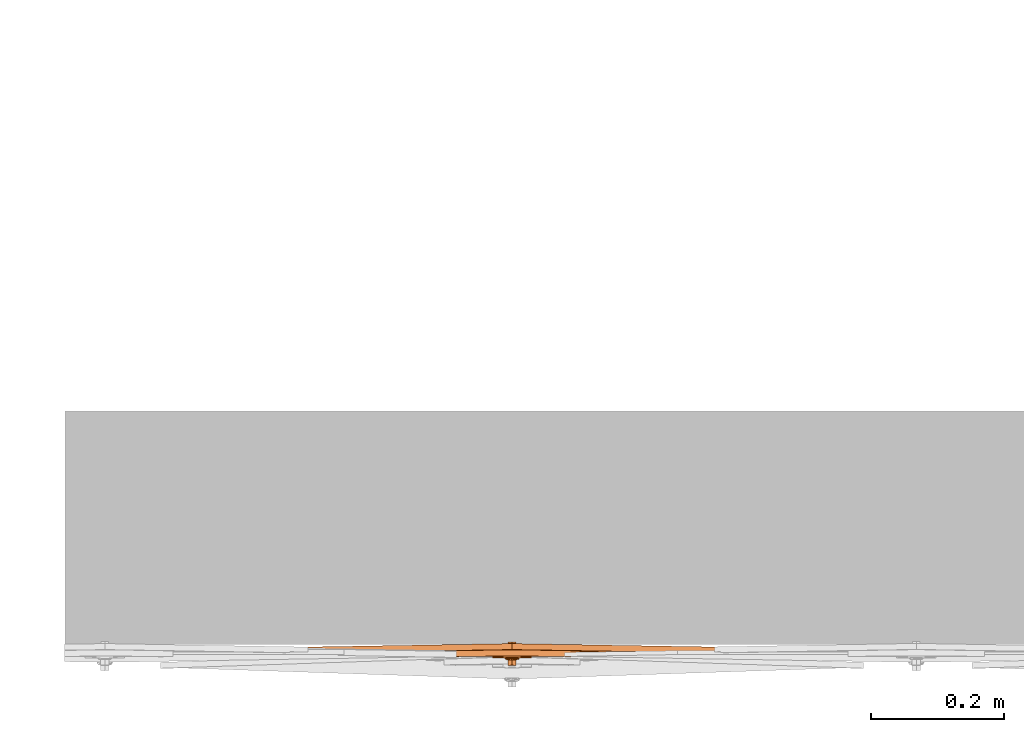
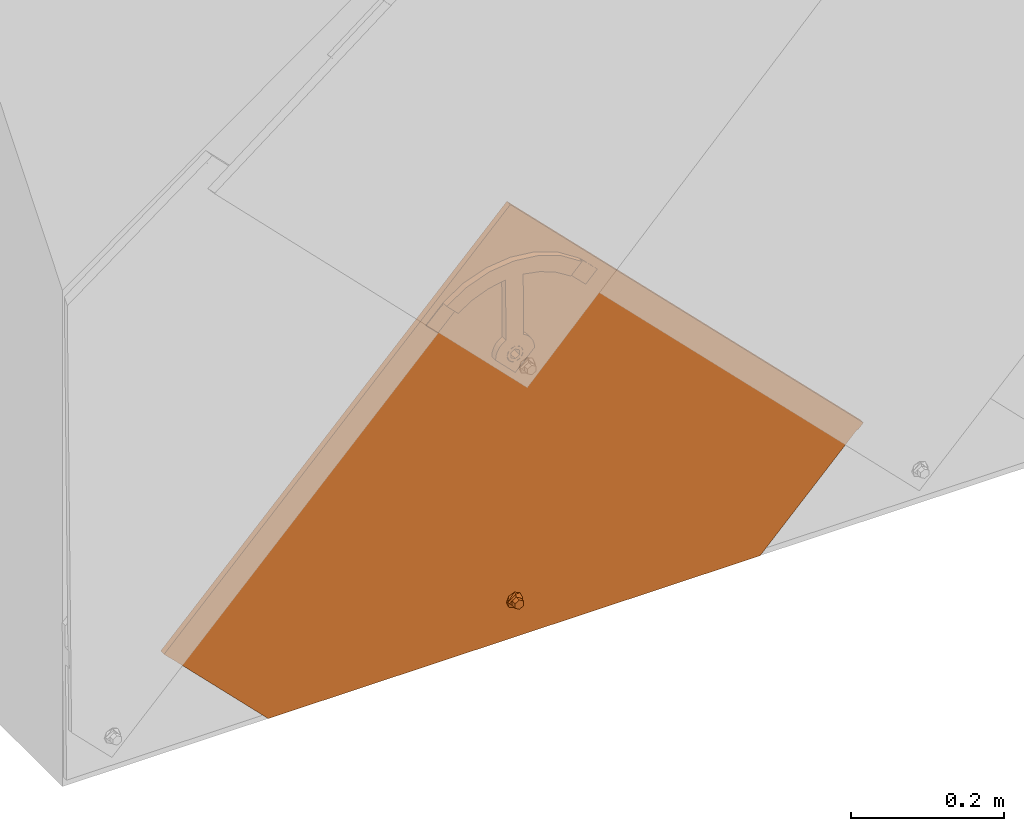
# One storey, part 3 of 151: 1 proxy.
"""IFC2X3 building model written with IfcOpenShell, lengths in millimetres."""

from ifc_helpers import new_model, entity, si_unit, converted_unit, derived_unit, direction, frame, origin, place, context, subcontext, project, spatial, faceted_brep, source, transform, mapped, material, material_list, type_object, type_shapes, element, save


model = new_model("IFC2X3")

# Units and contexts
model_context = context("Model", 3, precision=0.01, world=origin(), true_north=direction((6.12303176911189e-17, 1.0)))
body_context = subcontext(model_context, "Body", "Model", "MODEL_VIEW")
ifc_project = project(units=[si_unit("LENGTHUNIT", "METRE", prefix="MILLI"), si_unit("AREAUNIT", "SQUARE_METRE"), si_unit("VOLUMEUNIT", "CUBIC_METRE"), converted_unit("PLANEANGLEUNIT", "DEGREE", entity("IfcRatioMeasure", 0.0174532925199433), si_unit("PLANEANGLEUNIT", "RADIAN"), dimensions=[0, 0, 0, 0, 0, 0, 0]), si_unit("MASSUNIT", "GRAM", prefix="KILO"), derived_unit("MASSDENSITYUNIT", [(si_unit("MASSUNIT", "GRAM", prefix="KILO"), 1), (si_unit("LENGTHUNIT", "METRE"), -3)]), si_unit("TIMEUNIT", "SECOND"), si_unit("FREQUENCYUNIT", "HERTZ"), si_unit("THERMODYNAMICTEMPERATUREUNIT", "DEGREE_CELSIUS"), derived_unit("THERMALTRANSMITTANCEUNIT", [(si_unit("MASSUNIT", "GRAM", prefix="KILO"), 1), (si_unit("THERMODYNAMICTEMPERATUREUNIT", "KELVIN"), -1), (si_unit("TIMEUNIT", "SECOND"), -3)]), derived_unit("VOLUMETRICFLOWRATEUNIT", [(si_unit("LENGTHUNIT", "METRE"), 3), (si_unit("TIMEUNIT", "SECOND"), -1)]), si_unit("ELECTRICCURRENTUNIT", "AMPERE"), si_unit("ELECTRICVOLTAGEUNIT", "VOLT"), si_unit("POWERUNIT", "WATT"), si_unit("FORCEUNIT", "NEWTON", prefix="KILO"), si_unit("ILLUMINANCEUNIT", "LUX"), si_unit("LUMINOUSFLUXUNIT", "LUMEN"), si_unit("LUMINOUSINTENSITYUNIT", "CANDELA"), derived_unit("USERDEFINED", [(si_unit("MASSUNIT", "GRAM", prefix="KILO"), -1), (si_unit("LENGTHUNIT", "METRE"), -2), (si_unit("TIMEUNIT", "SECOND"), 3), (si_unit("LUMINOUSFLUXUNIT", "LUMEN"), 1)]), derived_unit("LINEARVELOCITYUNIT", [(si_unit("LENGTHUNIT", "METRE"), 1), (si_unit("TIMEUNIT", "SECOND"), -1)]), si_unit("PRESSUREUNIT", "PASCAL"), derived_unit("USERDEFINED", [(si_unit("LENGTHUNIT", "METRE"), -2), (si_unit("MASSUNIT", "GRAM", prefix="KILO"), 1), (si_unit("TIMEUNIT", "SECOND"), -2)])], contexts=[model_context])

# Site, building, storey
site_placement = place(None, origin())
site = spatial("IfcSite", under=ifc_project, at=site_placement, Name="Default", CompositionType="ELEMENT")
building_placement = place(site_placement, origin())
building = spatial("IfcBuilding", under=site, at=building_placement, CompositionType="ELEMENT")
storey_placement = place(building_placement, origin())
storey = spatial("IfcBuildingStorey", under=building, at=storey_placement, Name="Level 1", CompositionType="ELEMENT", Elevation=0.0)

# Proxy
ifc_material_1 = material(Name="Rubber - Sunstyle - Black")
ifc_material_2 = material(Name="Glass - Sunstyle - Tainted Terracotta")
ifc_material_list_1 = material_list([ifc_material_1, ifc_material_2])
ifc_material_list_2 = material_list([ifc_material_1, ifc_material_2])
building_element_proxy_type = type_object("IfcBuildingElementProxyType", Name="Shingle Bottom - Terracotta", PredefinedType="NOTDEFINED", material=ifc_material_list_2)
shared_shape = source(origin(), body_context, "Body", "Brep", [
    faceted_brep([(0.0, -1.79273515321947, -4.01619789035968), (-5.7742028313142, -5.12600528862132, -3.96037390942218), (-5.77420283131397, -4.75769619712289, 18.0314954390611), (0.0, -1.42442606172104, 17.9756714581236), (-5.77420283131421, -11.792545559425, -3.84872594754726), (-5.77420283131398, -11.4242364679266, 18.143143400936), (0.0, -15.1258156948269, -3.79290196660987), (0.0, -14.7575066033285, 18.1989673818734), (5.77420283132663, -11.7925455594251, -3.84872594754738), (5.77420283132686, -11.4242364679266, 18.1431434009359), (5.77420283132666, -5.12600528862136, -3.96037390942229), (5.77420283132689, -4.75769619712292, 18.031495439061), (-8.60370416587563, -16.6934641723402, 18.2313898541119), (0.0, -20.2567354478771, 18.2910657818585), (-12.1674751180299, -8.09096633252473, 18.0873194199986), (-8.60370416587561, 0.511531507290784, 17.9432489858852), (0.0, 4.07480278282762, 17.8835730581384), (8.60370416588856, 0.511531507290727, 17.9432489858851), (12.1674751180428, -8.09096633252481, 18.0873194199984), (8.60370416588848, -16.6934641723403, 18.2313898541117), (-11.4302228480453, -6.71737066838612, 20.4858706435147), (-9.77051349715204, -8.02009729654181, 22.3189355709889), (0.0, -0.706876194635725, 22.9603444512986), (0.0, 0.533621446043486, 22.3799978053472), (0.0, 2.69117229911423, 21.3706227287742), (-6.32324569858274, -4.35709193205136, 23.021476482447), (-6.32324569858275, -11.6575234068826, 23.1437405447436), (0.0, -18.7571148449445, 21.7298281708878), (0.0, -15.3077391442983, 23.2048725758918), (10.9851748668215, -11.808022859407, 20.3827540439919), (10.123850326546, -8.02413622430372, 22.0777687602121), (6.32324569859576, -4.3570919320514, 23.0214764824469), (6.32324569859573, -11.6575234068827, 23.1437405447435), (-6.32324569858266, -11.5234949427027, 31.146628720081), (0.0, -15.1737106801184, 31.2077607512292), (0.0, -7.8732792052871, 31.0854966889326), (-6.32324569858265, -4.22306346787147, 31.0243646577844), (6.32324569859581, -11.5234949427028, 31.1466287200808), (6.32324569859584, -4.22306346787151, 31.0243646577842), (0.0, -0.57284773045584, 30.963232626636), (0.0, -8.45927542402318, -3.90454992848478)], [[[0, 1, 2, 3]], [[1, 4, 5, 2]], [[4, 6, 7, 5]], [[6, 8, 9, 7]], [[8, 10, 11, 9]], [[10, 0, 3, 11]], [[12, 7, 13]], [[7, 12, 5]], [[14, 5, 12]], [[5, 14, 2]], [[15, 2, 14]], [[3, 2, 15]], [[15, 16, 3]], [[16, 17, 3]], [[11, 3, 17]], [[11, 17, 18]], [[9, 11, 18]], [[18, 19, 9]], [[7, 9, 19]], [[19, 13, 7]], [[15, 20, 16]], [[21, 22, 23, 24]], [[22, 21, 25]], [[20, 14, 12]], [[15, 14, 20]], [[25, 21, 26]], [[20, 24, 16]], [[12, 13, 27]], [[12, 27, 20]], [[21, 28, 26]], [[21, 27, 28]], [[20, 21, 24]], [[20, 27, 21]], [[19, 29, 13]], [[30, 23, 31]], [[30, 28, 27]], [[24, 23, 30]], [[29, 27, 13]], [[19, 18, 29]], [[29, 30, 27]], [[29, 17, 24]], [[24, 17, 16]], [[31, 32, 30]], [[23, 22, 31]], [[28, 30, 32]], [[29, 24, 30]], [[29, 18, 17]], [[33, 34, 35]], [[35, 36, 33]], [[34, 37, 35]], [[38, 35, 37]], [[35, 38, 39]], [[35, 39, 36]], [[40, 6, 4]], [[4, 1, 40]], [[1, 0, 40]], [[40, 8, 6]], [[0, 10, 40]], [[8, 40, 10]], [[22, 25, 36, 39]], [[25, 26, 33, 36]], [[26, 28, 34, 33]], [[28, 32, 37, 34]], [[32, 31, 38, 37]], [[31, 22, 39, 38]]]),
    faceted_brep([(0.0, 372.824876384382, 20.3195200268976), (0.0, 377.324245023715, 20.2441667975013), (-8.60370416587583, 376.388147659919, 20.2598440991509), (8.60370416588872, 376.388147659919, 20.2598440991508), (6.64022859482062, 381.157445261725, 20.1799702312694), (12.1674751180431, 384.990645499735, 20.1157736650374), (6.64022859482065, 388.823845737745, 20.0515770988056), (8.6037041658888, 393.59314333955, 19.9717032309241), (0.0, 392.657045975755, 19.9873805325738), (0.0, 397.156414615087, 19.9120273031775), (-8.60370416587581, 393.59314333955, 19.9717032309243), (-6.64022859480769, 388.823845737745, 20.0515770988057), (-12.1674751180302, 384.990645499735, 20.1157736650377), (-6.6402285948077, 381.157445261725, 20.1799702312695), (-6.6402282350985, 388.555922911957, 4.05382046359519), (0.0, 392.389122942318, 3.98962390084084), (-6.64022823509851, 380.889522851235, 4.18221358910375), (0.0, 377.056322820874, 4.24641015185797), (6.64022823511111, 380.889522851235, 4.18221358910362), (6.64022823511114, 388.555922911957, 4.05382046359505), (-8.603704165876, 376.12022504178, 4.26208746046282), (0.0, 372.556953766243, 4.32176338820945), (-12.1674751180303, 384.722722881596, 4.11801702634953), (-8.60370416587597, 393.325220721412, 3.97394659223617), (0.0, 396.888491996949, 3.91427066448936), (8.60370416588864, 393.325220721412, 3.97394659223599), (12.1674751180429, 384.722722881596, 4.11801702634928), (8.60370416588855, 376.12022504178, 4.26208746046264)], [[[0, 1, 2]], [[1, 0, 3]], [[3, 4, 1]], [[4, 3, 5]], [[6, 4, 5]], [[5, 7, 6]], [[7, 8, 6]], [[8, 7, 9]], [[8, 9, 10]], [[10, 11, 8]], [[12, 11, 10]], [[2, 13, 12]], [[12, 13, 11]], [[13, 2, 1]], [[8, 11, 14, 15]], [[11, 13, 16, 14]], [[13, 1, 17, 16]], [[1, 4, 18, 17]], [[4, 6, 19, 18]], [[6, 8, 15, 19]], [[20, 17, 21]], [[17, 20, 16]], [[22, 16, 20]], [[14, 16, 22]], [[23, 14, 22]], [[15, 14, 23]], [[23, 24, 15]], [[24, 25, 15]], [[19, 15, 25]], [[19, 25, 26]], [[26, 18, 19]], [[26, 27, 18]], [[17, 18, 27]], [[27, 21, 17]], [[24, 23, 10, 9]], [[10, 23, 22, 12]], [[20, 21, 0, 2]], [[20, 2, 12, 22]], [[21, 27, 3, 0]], [[3, 27, 26, 5]], [[25, 24, 9, 7]], [[25, 7, 5, 26]]]),
    faceted_brep([(518.247351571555, 79.9143812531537, 14.965257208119), (526.732038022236, 88.3990677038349, 14.8231598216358), (526.732038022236, 88.4241854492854, 16.3229495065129), (518.247351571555, 79.9394989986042, 16.4650468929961), (0.000322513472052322, 598.016093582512, 6.28834266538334), (-518.246706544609, 79.9143812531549, 14.9652572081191), (-526.73139299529, 88.3990677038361, 14.8231598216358), (0.000322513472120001, 614.983087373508, 6.00418773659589), (0.000322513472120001, 615.008205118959, 7.50397742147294), (-526.731392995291, 88.4241854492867, 16.3229495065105), (-518.246706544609, 79.9394989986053, 16.465046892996), (0.000322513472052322, 598.041211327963, 7.78813235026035)], [[[0, 1, 2, 3]], [[1, 0, 4, 5, 6, 7]], [[2, 1, 7, 8]], [[3, 2, 8, 9, 10, 11]], [[0, 3, 11, 4]], [[5, 10, 9, 6]], [[8, 7, 6, 9]], [[4, 11, 10, 5]]]),
    faceted_brep([(0.00032251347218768, 614.983087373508, 6.00418773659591), (-2.87802047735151, 396.187349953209, 9.66847193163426), (0.227808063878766, 396.596182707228, 9.6616250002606), (-5.77219193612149, 394.988712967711, 9.68854611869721), (3.3336366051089, 396.187349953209, 9.66847193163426), (6.22780806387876, 394.988712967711, 9.6885461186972), (8.71308943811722, 393.081956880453, 9.72047953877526), (10.620112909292, 390.59702396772, 9.76209598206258), (-8.25747331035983, 393.081956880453, 9.72047953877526), (-10.1644967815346, 390.59702396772, 9.76209598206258), (-11.3633018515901, 387.703258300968, 9.81055935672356), (-526.731392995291, 88.3990677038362, 14.8231598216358), (11.8189179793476, 387.703258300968, 9.81055935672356), (526.732038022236, 88.3990677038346, 14.8231598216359), (-11.7721919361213, 384.597865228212, 9.86256696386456), (-11.3633018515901, 381.492472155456, 9.91457457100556), (-10.1644967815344, 378.598706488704, 9.96303794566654), (-370.355016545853, -67.9334607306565, 17.4413406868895), (-8.25747331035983, 376.113773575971, 10.0046543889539), (-5.65685424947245, -2.29422365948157, 16.3420467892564), (-6.92820323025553, -3.95084560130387, 16.3697910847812), (-7.72740661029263, -5.88002271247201, 16.4021000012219), (-8.0, -7.95028476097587, 16.4367717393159), (-7.72740661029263, -10.0205468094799, 16.4714434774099), (-6.9282032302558, -11.9497239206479, 16.5037523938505), (-5.65685424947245, -13.6063458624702, 16.5314966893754), (-4.0, -14.8775165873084, 16.5527856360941), (-2.07055236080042, -15.676607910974, 16.5661684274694), (0.0, -15.9491630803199, 16.5707330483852), (370.355661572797, -67.9334607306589, 17.4413406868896), (10.620112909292, 378.598706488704, 9.96303794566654), (8.71308943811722, 376.11377357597, 10.0046543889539), (5.65685424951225, -2.29422365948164, 16.3420467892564), (6.92820323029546, -3.9508456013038, 16.3697910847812), (7.72740661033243, -5.88002271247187, 16.4021000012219), (8.0, -7.9502847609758, 16.4367717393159), (7.72740661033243, -10.0205468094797, 16.4714434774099), (6.92820323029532, -11.9497239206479, 16.5037523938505), (5.65685424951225, -13.6063458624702, 16.5314966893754), (4.0, -14.8775165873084, 16.5527856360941), (2.07055236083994, -15.676607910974, 16.5661684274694), (-5.77219193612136, 374.207017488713, 10.0365878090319), (-4.0, -1.02305293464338, 16.3207578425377), (-2.87802047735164, 373.008380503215, 10.0566619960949), (-2.07055236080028, -0.223961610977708, 16.3073750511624), (0.227808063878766, 372.599547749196, 10.0635089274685), (0.0, 0.0485935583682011, 16.3028104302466), (2.07055236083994, -0.223961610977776, 16.3073750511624), (3.3336366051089, 373.008380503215, 10.0566619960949), (4.0, -1.02305293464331, 16.3207578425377), (6.22780806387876, 374.207017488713, 10.0365878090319), (12.2278080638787, 384.597865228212, 9.86256696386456), (11.8189179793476, 381.492472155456, 9.91457457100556), (-370.355016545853, -68.059049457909, 9.94239226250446), (-6.92820323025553, -4.07643432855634, 8.87084266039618), (-7.72740661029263, -6.00561143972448, 8.90315157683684), (-8.0, -8.07587348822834, 8.93782331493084), (-7.72740661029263, -10.1461355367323, 8.97249505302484), (-6.9282032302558, -12.0753126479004, 9.00480396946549), (-5.65685424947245, -13.7319345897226, 9.03254826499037), (-5.65685424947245, -2.41981238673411, 8.8430983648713), (-8.25747331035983, 375.988184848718, 2.50570596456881), (-4.0, -15.0031053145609, 9.05383721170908), (-2.07055236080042, -15.8021966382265, 9.06722000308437), (0.0, -16.0747518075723, 9.07178462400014), (370.355661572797, -68.0590494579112, 9.9423922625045), (-10.1644967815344, 378.473117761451, 2.46408952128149), (-526.731392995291, 88.2734789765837, 7.32421139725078), (-11.3633018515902, 381.366883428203, 2.41562614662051), (-11.7721919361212, 384.472276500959, 2.36361853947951), (-11.3633018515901, 387.577669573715, 2.3116109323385), (0.00032251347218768, 614.857498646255, -1.49476068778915), (-10.1644967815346, 390.471435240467, 2.26314755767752), (-8.25747331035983, 392.956368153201, 2.22153111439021), (-5.77219193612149, 394.863124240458, 2.18959769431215), (-2.87802047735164, 396.061761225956, 2.16952350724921), (0.227808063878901, 396.470593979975, 2.16267657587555), (3.3336366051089, 396.061761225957, 2.1695235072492), (6.22780806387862, 394.863124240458, 2.18959769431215), (8.71308943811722, 392.956368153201, 2.2215311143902), (10.620112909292, 390.471435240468, 2.26314755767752), (11.8189179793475, 387.577669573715, 2.31161093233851), (526.732038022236, 88.2734789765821, 7.32421139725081), (12.2278080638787, 384.472276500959, 2.3636185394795), (10.620112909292, 378.473117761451, 2.46408952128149), (11.8189179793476, 381.366883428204, 2.41562614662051), (-5.77219193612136, 374.08142876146, 2.53763938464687), (-4.0, -1.14864166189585, 8.8218094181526), (-2.87802047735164, 372.882791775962, 2.55771357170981), (-2.07055236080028, -0.349550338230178, 8.8084266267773), (0.227808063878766, 372.473959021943, 2.56456050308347), (0.0, -0.0769951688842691, 8.80386200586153), (2.07055236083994, -0.349550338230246, 8.8084266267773), (3.3336366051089, 372.882791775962, 2.55771357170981), (4.0, -1.14864166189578, 8.8218094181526), (6.22780806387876, 374.081428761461, 2.53763938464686), (5.65685424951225, -2.41981238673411, 8.8430983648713), (8.71308943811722, 375.988184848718, 2.50570596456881), (6.92820323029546, -4.07643432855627, 8.87084266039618), (7.72740661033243, -6.00561143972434, 8.90315157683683), (8.0, -8.07587348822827, 8.93782331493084), (7.72740661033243, -10.1461355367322, 8.97249505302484), (6.92820323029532, -12.0753126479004, 9.00480396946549), (5.65685424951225, -13.7319345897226, 9.03254826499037), (4.0, -15.0031053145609, 9.05383721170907), (2.07055236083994, -15.8021966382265, 9.06722000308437)], [[[0, 1, 2]], [[1, 0, 3]], [[0, 2, 4]], [[4, 5, 0]], [[5, 6, 0]], [[0, 6, 7]], [[8, 3, 0]], [[9, 8, 0]], [[9, 0, 10]], [[10, 0, 11]], [[12, 0, 7]], [[12, 13, 0]], [[11, 14, 10]], [[14, 11, 15]], [[16, 15, 11]], [[11, 17, 16]], [[16, 17, 18]], [[19, 18, 17]], [[19, 17, 20]], [[20, 17, 21]], [[22, 21, 17]], [[22, 17, 23]], [[24, 23, 17]], [[17, 25, 24]], [[26, 25, 17]], [[27, 26, 17]], [[17, 28, 27]], [[28, 17, 29]], [[29, 13, 30]], [[29, 30, 31]], [[29, 31, 32]], [[32, 33, 29]], [[33, 34, 29]], [[35, 29, 34]], [[29, 35, 36]], [[36, 37, 29]], [[29, 37, 38]], [[38, 39, 29]], [[40, 28, 29]], [[39, 40, 29]], [[41, 18, 19]], [[42, 41, 19]], [[42, 43, 41]], [[44, 43, 42]], [[44, 45, 43]], [[46, 45, 44]], [[47, 45, 46]], [[48, 45, 47]], [[49, 48, 47]], [[49, 50, 48]], [[32, 50, 49]], [[32, 31, 50]], [[12, 51, 13]], [[52, 13, 51]], [[13, 52, 30]], [[53, 54, 55]], [[53, 55, 56]], [[56, 57, 53]], [[57, 58, 53]], [[53, 58, 59]], [[60, 54, 53]], [[61, 60, 53]], [[59, 62, 53]], [[62, 63, 53]], [[63, 64, 53]], [[53, 64, 65]], [[66, 61, 53]], [[66, 53, 67]], [[68, 66, 67]], [[69, 68, 67]], [[69, 67, 70]], [[67, 71, 70]], [[72, 70, 71]], [[73, 72, 71]], [[71, 74, 73]], [[74, 71, 75]], [[75, 71, 76]], [[77, 76, 71]], [[77, 71, 78]], [[79, 78, 71]], [[71, 80, 79]], [[80, 71, 81]], [[71, 82, 81]], [[83, 81, 82]], [[84, 82, 65]], [[85, 82, 84]], [[82, 85, 83]], [[86, 60, 61]], [[86, 87, 60]], [[88, 87, 86]], [[89, 87, 88]], [[90, 89, 88]], [[90, 91, 89]], [[92, 91, 90]], [[92, 90, 93]], [[94, 92, 93]], [[93, 95, 94]], [[94, 95, 96]], [[97, 96, 95]], [[96, 97, 65]], [[84, 65, 97]], [[98, 96, 65]], [[99, 98, 65]], [[99, 65, 100]], [[101, 100, 65]], [[102, 101, 65]], [[103, 102, 65]], [[104, 103, 65]], [[105, 104, 65]], [[65, 64, 105]], [[11, 0, 71, 67]], [[17, 11, 67, 53]], [[13, 29, 65, 82]], [[0, 13, 82, 71]], [[22, 56, 55, 21]], [[21, 55, 54, 20]], [[42, 19, 60, 87]], [[60, 19, 20, 54]], [[44, 42, 87, 89]], [[44, 89, 91, 46]], [[46, 91, 92, 47]], [[47, 92, 94, 49]], [[33, 32, 96, 98]], [[96, 32, 49, 94]], [[34, 33, 98, 99]], [[34, 99, 100, 35]], [[35, 100, 101, 36]], [[36, 101, 102, 37]], [[39, 38, 103, 104]], [[103, 38, 37, 102]], [[40, 39, 104, 105]], [[40, 105, 64, 28]], [[28, 64, 63, 27]], [[27, 63, 62, 26]], [[24, 25, 59, 58]], [[59, 25, 26, 62]], [[23, 24, 58, 57]], [[23, 57, 56, 22]], [[14, 69, 70, 10]], [[10, 70, 72, 9]], [[3, 8, 73, 74]], [[73, 8, 9, 72]], [[1, 3, 74, 75]], [[1, 75, 76, 2]], [[2, 76, 77, 4]], [[4, 77, 78, 5]], [[7, 6, 79, 80]], [[79, 6, 5, 78]], [[12, 7, 80, 81]], [[12, 81, 83, 51]], [[51, 83, 85, 52]], [[52, 85, 84, 30]], [[50, 31, 97, 95]], [[97, 31, 30, 84]], [[48, 50, 95, 93]], [[48, 93, 90, 45]], [[45, 90, 88, 43]], [[43, 88, 86, 41]], [[16, 18, 61, 66]], [[41, 86, 61, 18]], [[68, 15, 16, 66]], [[15, 68, 69, 14]], [[29, 17, 53, 65]]]),
    faceted_brep([(-111.269043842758, 451.472531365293, 11.2429332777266), (-84.9443960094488, 477.793488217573, 10.8021227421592), (-102.027571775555, 494.874268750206, 10.5160621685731), (-108.279973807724, 489.512620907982, 10.6058564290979), (-114.2509690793, 483.839345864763, 10.7008696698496), (-128.946713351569, 469.147722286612, 10.9469178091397), (128.946713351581, 469.147722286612, 10.9469178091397), (114.250969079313, 483.839345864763, 10.7008696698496), (108.279973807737, 489.512620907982, 10.6058564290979), (102.027571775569, 494.874268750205, 10.5160621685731), (84.9431983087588, 477.794685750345, 10.802102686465), (111.269043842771, 451.472531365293, 11.2429332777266), (-8.48528137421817, 393.302959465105, 19.7181805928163), (-18.7041061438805, 407.484939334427, 19.4806677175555), (-23.2046504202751, 402.851933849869, 19.5582590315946), (-10.3923048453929, 390.818026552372, 19.7597970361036), (-6.0, 395.209715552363, 19.6862471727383), (-13.2999999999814, 411.02298750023, 19.4214142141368), (-3.10582854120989, 396.408352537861, 19.6661729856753), (0.0, 396.81718529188, 19.6593260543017), (13.3000000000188, 411.022987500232, 19.4214142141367), (3.10582854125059, 396.408352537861, 19.6661729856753), (6.0, 395.209715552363, 19.6862471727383), (18.7041061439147, 407.484939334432, 19.4806677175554), (8.48528137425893, 393.302959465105, 19.7181805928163), (23.2046504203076, 402.85193384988, 19.5582590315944), (10.3923048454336, 390.818026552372, 19.7597970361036), (26.5842195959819, 397.347783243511, 19.6504398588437), (11.5911099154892, 387.92426088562, 19.8082604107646), (28.6795527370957, 391.238383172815, 19.752757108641), (12.0, 384.818867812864, 19.8602680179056), (29.3894280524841, 384.818867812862, 19.8602680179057), (11.5911099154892, 381.713474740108, 19.9122756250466), (10.3923048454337, 378.819709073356, 19.9607389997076), (8.48528137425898, 376.334776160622, 20.0023554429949), (0.0, 355.433560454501, 20.3523987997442), (6.0, 374.428020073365, 20.034288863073), (3.10582854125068, 373.229383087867, 20.0543630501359), (0.0, 372.820550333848, 20.0612099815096), (-3.10582854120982, 373.229383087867, 20.0543630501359), (-6.0, 374.428020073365, 20.034288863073), (-8.48528137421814, 376.334776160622, 20.0023554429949), (-29.3894280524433, 384.818867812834, 19.8602680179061), (-10.3923048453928, 378.819709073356, 19.9607389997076), (-11.5911099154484, 381.713474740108, 19.9122756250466), (-12.0, 384.818867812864, 19.8602680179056), (-28.67955273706, 391.238383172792, 19.7527571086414), (-11.5911099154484, 387.92426088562, 19.8082604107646), (-26.5842195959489, 397.347783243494, 19.650439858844), (-13.2999999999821, 505.810987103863, 17.833951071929), (13.3000000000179, 505.810987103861, 17.833951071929), (0.0, 531.282600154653, 17.4073649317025), (36.4908407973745, 527.108634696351, 17.4772684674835), (38.7697427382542, 500.996106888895, 17.9145883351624), (71.096085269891, 514.802420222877, 17.6833669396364), (62.9243331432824, 491.592473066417, 18.0720758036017), (102.027571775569, 494.999857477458, 18.0150105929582), (84.9443960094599, 477.919076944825, 18.3010711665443), (-36.4908407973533, 527.108634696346, 17.4772684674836), (-38.7697427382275, 500.996106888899, 17.9145883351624), (-71.0960852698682, 514.802420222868, 17.6833669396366), (-62.9243331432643, 491.592473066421, 18.0720758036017), (-102.027571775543, 494.999857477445, 18.0150105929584), (-84.9443960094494, 477.919076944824, 18.3010711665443), (0.0, 355.266108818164, 10.3538009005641), (0.0, 372.653098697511, 10.0626120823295), (3.10582854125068, 373.06193145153, 10.0557651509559), (-3.10582854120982, 373.06193145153, 10.0557651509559), (6.0, 374.260568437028, 10.0356909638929), (8.48528137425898, 376.167324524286, 10.0037575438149), (29.3894280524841, 384.651416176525, 9.86167011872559), (-6.0, 374.260568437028, 10.0356909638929), (-8.48528137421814, 376.167324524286, 10.0037575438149), (-29.3894280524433, 384.651416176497, 9.86167011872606), (-10.3923048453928, 378.652257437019, 9.96214110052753), (-11.5911099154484, 381.546023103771, 9.91367772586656), (-12.0, 384.651416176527, 9.86167011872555), (-28.67955273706, 391.070931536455, 9.75415920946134), (-11.5911099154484, 387.756809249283, 9.80966251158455), (-26.5842195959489, 397.180331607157, 9.65184195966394), (-10.3923048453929, 390.650574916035, 9.76119913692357), (-23.2046504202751, 402.684482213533, 9.5596611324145), (-8.48528137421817, 393.135507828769, 9.71958269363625), (-18.7041061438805, 407.31748769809, 9.48206981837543), (-6.0, 395.042263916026, 9.6876492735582), (-13.2999999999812, 410.855535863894, 9.4228163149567), (-3.10582854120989, 396.240900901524, 9.66757508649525), (0.0, 396.649733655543, 9.66072815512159), (13.3000000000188, 410.855535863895, 9.42281631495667), (-13.2999999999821, 505.643535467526, 7.83535317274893), (13.3000000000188, 505.643535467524, 7.83535317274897), (0.0, 531.115148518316, 7.4087670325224), (-36.4908407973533, 526.94118306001, 7.47867056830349), (-38.7697427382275, 500.828655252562, 7.91599043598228), (-71.0960852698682, 514.634968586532, 7.68476904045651), (-62.9243331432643, 491.425021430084, 8.07347790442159), (-102.027571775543, 494.832405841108, 8.01641269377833), (-84.9431983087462, 477.752822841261, 8.30245321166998), (-108.279973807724, 489.470757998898, 8.10620695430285), (-114.2509690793, 483.79748295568, 8.2012201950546), (-111.269043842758, 451.430668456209, 8.74328380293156), (-128.946713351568, 469.105859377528, 8.44726833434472), (36.4908407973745, 526.941183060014, 7.47867056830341), (38.7697427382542, 500.828655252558, 7.91599043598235), (71.096085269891, 514.634968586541, 7.68476904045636), (62.9243331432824, 491.425021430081, 8.07347790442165), (102.027571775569, 494.832405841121, 8.01641269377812), (84.9443960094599, 477.751625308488, 8.30247326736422), (108.279973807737, 489.470757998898, 8.10620695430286), (114.250969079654, 483.797482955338, 8.20122019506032), (111.269043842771, 451.430668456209, 8.74328380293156), (128.946713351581, 469.105859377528, 8.44726833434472), (3.10582854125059, 396.240900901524, 9.66757508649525), (6.0, 395.042263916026, 9.6876492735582), (18.7041061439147, 407.317487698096, 9.48206981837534), (8.48528137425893, 393.135507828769, 9.71958269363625), (23.2046504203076, 402.684482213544, 9.55966113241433), (10.3923048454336, 390.650574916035, 9.76119913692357), (26.5842195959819, 397.180331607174, 9.65184195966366), (11.5911099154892, 387.756809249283, 9.80966251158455), (28.6795527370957, 391.070931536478, 9.75415920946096), (12.0, 384.651416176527, 9.86167011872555), (11.5911099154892, 381.546023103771, 9.91367772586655), (10.3923048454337, 378.652257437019, 9.96214110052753)], [[[0, 1, 2, 3, 4, 5]], [[6, 7, 8, 9, 10, 11]], [[12, 13, 14]], [[15, 12, 14]], [[16, 13, 12]], [[13, 16, 17]], [[17, 16, 18]], [[18, 19, 17]], [[20, 17, 19]], [[19, 21, 20]], [[22, 20, 21]], [[22, 23, 20]], [[22, 24, 23]], [[25, 23, 24]], [[26, 25, 24]], [[25, 26, 27]], [[26, 28, 27]], [[29, 27, 28]], [[28, 30, 29]], [[31, 29, 30]], [[30, 32, 31]], [[32, 33, 31]], [[31, 33, 34]], [[34, 35, 31]], [[34, 36, 35]], [[37, 35, 36]], [[38, 35, 37]], [[35, 38, 39]], [[40, 35, 39]], [[40, 41, 35]], [[42, 35, 41]], [[43, 42, 41]], [[43, 44, 42]], [[44, 45, 42]], [[45, 46, 42]], [[46, 45, 47]], [[48, 46, 47]], [[47, 15, 48]], [[48, 15, 14]], [[20, 49, 17]], [[49, 20, 50]], [[51, 49, 50]], [[50, 52, 51]], [[53, 52, 50]], [[52, 53, 54]], [[55, 54, 53]], [[54, 55, 56]], [[55, 57, 56]], [[58, 49, 51]], [[49, 58, 59]], [[60, 59, 58]], [[60, 61, 59]], [[61, 60, 62]], [[61, 62, 63]], [[64, 65, 66]], [[65, 64, 67]], [[64, 66, 68]], [[68, 69, 64]], [[64, 69, 70]], [[71, 67, 64]], [[71, 64, 72]], [[72, 64, 73]], [[73, 74, 72]], [[74, 73, 75]], [[76, 75, 73]], [[77, 76, 73]], [[76, 77, 78]], [[78, 77, 79]], [[80, 78, 79]], [[81, 80, 79]], [[82, 80, 81]], [[81, 83, 82]], [[83, 84, 82]], [[84, 83, 85]], [[85, 86, 84]], [[87, 86, 85]], [[87, 85, 88]], [[88, 85, 89]], [[88, 89, 90]], [[89, 91, 90]], [[91, 89, 92]], [[93, 92, 89]], [[94, 92, 93]], [[93, 95, 94]], [[95, 96, 94]], [[97, 96, 95]], [[98, 96, 97]], [[99, 98, 97]], [[97, 100, 99]], [[101, 99, 100]], [[102, 90, 91]], [[90, 102, 103]], [[104, 103, 102]], [[103, 104, 105]], [[105, 104, 106]], [[107, 105, 106]], [[107, 106, 108]], [[109, 107, 108]], [[110, 107, 109]], [[111, 110, 109]], [[87, 88, 112]], [[113, 112, 88]], [[114, 113, 88]], [[115, 113, 114]], [[115, 114, 116]], [[116, 117, 115]], [[116, 118, 117]], [[117, 118, 119]], [[119, 118, 120]], [[121, 119, 120]], [[120, 70, 121]], [[122, 121, 70]], [[70, 69, 123]], [[123, 122, 70]], [[17, 49, 89, 85]], [[13, 17, 85, 83]], [[14, 13, 83, 81]], [[81, 79, 48, 14]], [[46, 48, 79, 77]], [[42, 46, 77, 73]], [[35, 42, 73, 64]], [[31, 35, 64, 70]], [[29, 31, 70, 120]], [[27, 29, 120, 118]], [[118, 116, 25, 27]], [[23, 25, 116, 114]], [[20, 23, 114, 88]], [[50, 20, 88, 90]], [[9, 106, 104, 54, 56]], [[52, 54, 104, 102]], [[51, 52, 102, 91]], [[58, 51, 91, 92]], [[94, 96, 2, 62, 60]], [[60, 58, 92, 94]], [[45, 76, 78, 47]], [[47, 78, 80, 15]], [[16, 12, 82, 84]], [[80, 82, 12, 15]], [[18, 16, 84, 86]], [[87, 19, 18, 86]], [[21, 112, 113, 22]], [[22, 113, 115, 24]], [[28, 26, 117, 119]], [[115, 117, 26, 24]], [[30, 28, 119, 121]], [[21, 19, 87, 112]], [[30, 121, 122, 32]], [[32, 122, 123, 33]], [[36, 34, 69, 68]], [[123, 69, 34, 33]], [[37, 36, 68, 66]], [[65, 38, 37, 66]], [[39, 67, 71, 40]], [[40, 71, 72, 41]], [[44, 43, 74, 75]], [[72, 74, 43, 41]], [[45, 44, 75, 76]], [[39, 38, 65, 67]], [[7, 6, 111, 109]], [[6, 11, 110, 111]], [[7, 109, 108, 8]], [[108, 106, 9, 8]], [[11, 10, 107, 110]], [[0, 5, 101, 100]], [[1, 0, 100, 97]], [[2, 96, 98, 3]], [[98, 99, 4, 3]], [[5, 4, 99, 101]], [[63, 62, 2, 1]], [[56, 57, 10]], [[10, 9, 56]], [[1, 95, 61, 63]], [[1, 97, 95]], [[93, 89, 49, 59]], [[95, 93, 59, 61]], [[90, 103, 53, 50]], [[103, 105, 55, 53]], [[10, 57, 55]], [[107, 10, 105]], [[55, 105, 10]]]),
])
type_shapes(building_element_proxy_type, [shared_shape])
proxy_placement = place(storey_placement, frame((-13697.4438893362, -13191.873651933, 308.325113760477), z_axis=(0.0, -1.0, 0.0), x_axis=(1.0, 0.0, 0.0)))
element("IfcBuildingElementProxy", 1, at=proxy_placement, inside=storey, type_object=building_element_proxy_type, material=ifc_material_list_1, Name="Roofing_Panels_SunStyle_Tile_Shingle-Bottom:Shingle Bottom - Terracotta", ObjectType="Roofing_Panels_SunStyle_Tile_Shingle-Bottom:Shingle Bottom - Terracotta", context=body_context, shape_type="MappedRepresentation", body=[
    mapped(shared_shape, transform((0.0, 0.0, 0.0), scale=1.0)),
])

save(model, "model.ifc")
